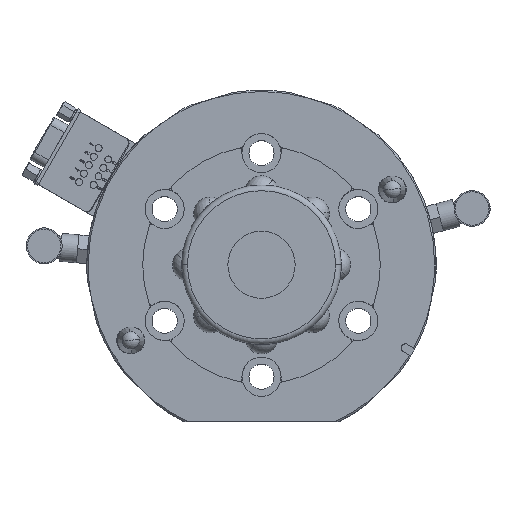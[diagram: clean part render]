
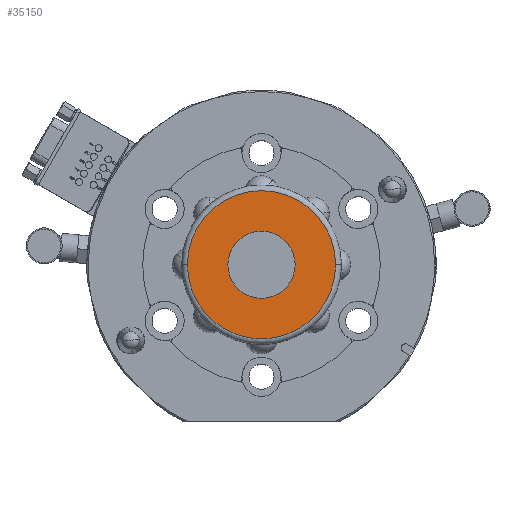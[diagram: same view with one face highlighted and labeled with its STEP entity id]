
A CAD part, top view. The second image highlights one B-rep face of the part: STEP entity #35150.
In plain terms, the highlighted planar face has unit normal (0, 0, 1).
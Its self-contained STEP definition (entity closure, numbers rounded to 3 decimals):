
#378 = CIRCLE ( 'NONE', #29486, 12.02 ) ;
#1827 = DIRECTION ( 'NONE',  ( 0., 0., -1. ) ) ;
#1873 = CARTESIAN_POINT ( 'NONE',  ( 0., 0., 55.5 ) ) ;
#2399 = DIRECTION ( 'NONE',  ( 1., 0., 0. ) ) ;
#3036 = CARTESIAN_POINT ( 'NONE',  ( -26.5, 0., 55.5 ) ) ;
#5820 = CARTESIAN_POINT ( 'NONE',  ( -12.02, 0., 55.5 ) ) ;
#5915 = AXIS2_PLACEMENT_3D ( 'NONE', #25581, #16925, #56552 ) ;
#7389 = EDGE_CURVE ( 'NONE', #41892, #34763, #22938, .T. ) ;
#10376 = EDGE_CURVE ( 'NONE', #35860, #42397, #378, .T. ) ;
#11668 = AXIS2_PLACEMENT_3D ( 'NONE', #12819, #57532, #48211 ) ;
#12819 = CARTESIAN_POINT ( 'NONE',  ( 0., 0., 55.5 ) ) ;
#15517 = DIRECTION ( 'NONE',  ( 0., 0., 1. ) ) ;
#15757 = CARTESIAN_POINT ( 'NONE',  ( 12.02, 0., 55.5 ) ) ;
#16925 = DIRECTION ( 'NONE',  ( 0., 0., 1. ) ) ;
#18281 = FACE_OUTER_BOUND ( 'NONE', #32369, .T. ) ;
#19661 = DIRECTION ( 'NONE',  ( -1., 0., 0. ) ) ;
#22560 = CIRCLE ( 'NONE', #22706, 26.5 ) ;
#22706 = AXIS2_PLACEMENT_3D ( 'NONE', #1873, #15517, #19661 ) ;
#22938 = CIRCLE ( 'NONE', #11668, 26.5 ) ;
#25581 = CARTESIAN_POINT ( 'NONE',  ( 0., 0., 55.5 ) ) ;
#26338 = CARTESIAN_POINT ( 'NONE',  ( 0., 0., 55.5 ) ) ;
#29078 = AXIS2_PLACEMENT_3D ( 'NONE', #26338, #38407, #39770 ) ;
#29486 = AXIS2_PLACEMENT_3D ( 'NONE', #37401, #1827, #2399 ) ;
#32369 = EDGE_LOOP ( 'NONE', ( #53076, #46944 ) ) ;
#33864 = EDGE_CURVE ( 'NONE', #34763, #41892, #22560, .T. ) ;
#34763 = VERTEX_POINT ( 'NONE', #53125 ) ;
#35150 = ADVANCED_FACE ( 'NONE', ( #49119, #18281 ), #47996, .T. ) ;
#35860 = VERTEX_POINT ( 'NONE', #15757 ) ;
#37401 = CARTESIAN_POINT ( 'NONE',  ( 0., 0., 55.5 ) ) ;
#38252 = CIRCLE ( 'NONE', #29078, 12.02 ) ;
#38407 = DIRECTION ( 'NONE',  ( 0., 0., -1. ) ) ;
#39770 = DIRECTION ( 'NONE',  ( 1., 0., 0. ) ) ;
#41892 = VERTEX_POINT ( 'NONE', #3036 ) ;
#42397 = VERTEX_POINT ( 'NONE', #5820 ) ;
#43088 = ORIENTED_EDGE ( 'NONE', *, *, #10376, .T. ) ;
#46111 = ORIENTED_EDGE ( 'NONE', *, *, #57041, .T. ) ;
#46374 = EDGE_LOOP ( 'NONE', ( #43088, #46111 ) ) ;
#46944 = ORIENTED_EDGE ( 'NONE', *, *, #33864, .T. ) ;
#47996 = PLANE ( 'NONE',  #5915 ) ;
#48211 = DIRECTION ( 'NONE',  ( -1., 0., 0. ) ) ;
#49119 = FACE_BOUND ( 'NONE', #46374, .T. ) ;
#53076 = ORIENTED_EDGE ( 'NONE', *, *, #7389, .T. ) ;
#53125 = CARTESIAN_POINT ( 'NONE',  ( 26.5, 0., 55.5 ) ) ;
#56552 = DIRECTION ( 'NONE',  ( -1., 0., 0. ) ) ;
#57041 = EDGE_CURVE ( 'NONE', #42397, #35860, #38252, .T. ) ;
#57532 = DIRECTION ( 'NONE',  ( 0., 0., 1. ) ) ;
